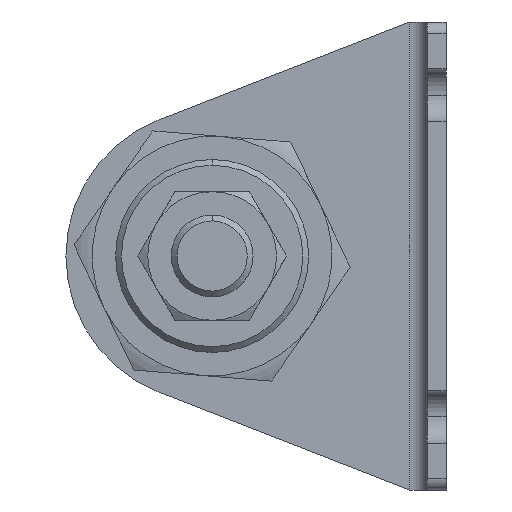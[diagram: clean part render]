
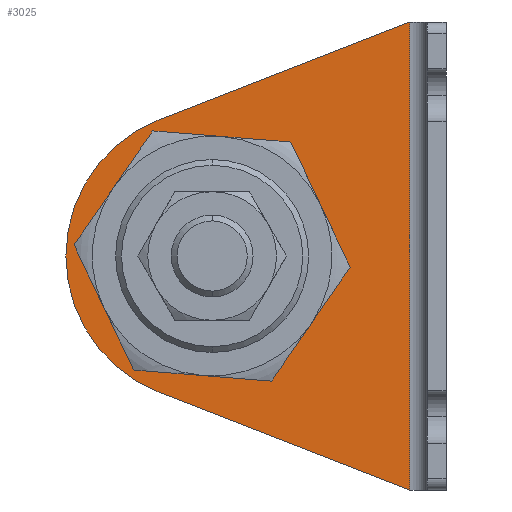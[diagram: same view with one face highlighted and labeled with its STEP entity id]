
A CAD part, left-side view. The second image highlights one B-rep face of the part: STEP entity #3025.
In plain terms, the highlighted planar face has unit normal (-1, 0, 0) as drawn and (1, 0, 0) by its records, which use the part's own axes.
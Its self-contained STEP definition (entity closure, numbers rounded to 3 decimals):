
#70 = AXIS2_PLACEMENT_3D ( 'NONE', #3148, #826, #3296 ) ;
#255 = CIRCLE ( 'NONE', #2501, 25. ) ;
#327 = VERTEX_POINT ( 'NONE', #2101 ) ;
#402 = DIRECTION ( 'NONE',  ( 0., 1., 0. ) ) ;
#411 = FACE_OUTER_BOUND ( 'NONE', #2574, .T. ) ;
#428 = VERTEX_POINT ( 'NONE', #1040 ) ;
#476 = VERTEX_POINT ( 'NONE', #831 ) ;
#553 = DIRECTION ( 'NONE',  ( 0., 0.932, 0.363 ) ) ;
#587 = CARTESIAN_POINT ( 'NONE',  ( 3.2, 40., -40. ) ) ;
#662 = ORIENTED_EDGE ( 'NONE', *, *, #2709, .F. ) ;
#712 = CARTESIAN_POINT ( 'NONE',  ( 3.2, 3.595, -81.015 ) ) ;
#715 = DIRECTION ( 'NONE',  ( 1., 0., 0. ) ) ;
#773 = LINE ( 'NONE', #1337, #2766 ) ;
#826 = DIRECTION ( 'NONE',  ( 1., 0., 0. ) ) ;
#831 = CARTESIAN_POINT ( 'NONE',  ( 3.2, 49.076, -16.706 ) ) ;
#872 = EDGE_CURVE ( 'NONE', #1557, #476, #2141, .T. ) ;
#892 = EDGE_LOOP ( 'NONE', ( #662, #3761 ) ) ;
#998 = CARTESIAN_POINT ( 'NONE',  ( 3.2, 3.2, -80. ) ) ;
#1013 = LINE ( 'NONE', #3983, #2777 ) ;
#1040 = CARTESIAN_POINT ( 'NONE',  ( 3.2, 56.5, -40. ) ) ;
#1300 = VERTEX_POINT ( 'NONE', #3874 ) ;
#1337 = CARTESIAN_POINT ( 'NONE',  ( 3.2, 30.657, -9.529 ) ) ;
#1357 = AXIS2_PLACEMENT_3D ( 'NONE', #998, #3534, #4303 ) ;
#1557 = VERTEX_POINT ( 'NONE', #2855 ) ;
#1574 = ORIENTED_EDGE ( 'NONE', *, *, #872, .T. ) ;
#1632 = DIRECTION ( 'NONE',  ( 0., 0.932, -0.363 ) ) ;
#1658 = DIRECTION ( 'NONE',  ( 1., 0., 0. ) ) ;
#1723 = AXIS2_PLACEMENT_3D ( 'NONE', #2669, #715, #402 ) ;
#1853 = VERTEX_POINT ( 'NONE', #3007 ) ;
#2101 = CARTESIAN_POINT ( 'NONE',  ( 3.2, 23.5, -40. ) ) ;
#2141 = CIRCLE ( 'NONE', #70, 25. ) ;
#2168 = VERTEX_POINT ( 'NONE', #2420 ) ;
#2330 = ORIENTED_EDGE ( 'NONE', *, *, #4276, .T. ) ;
#2345 = CIRCLE ( 'NONE', #1723, 16.5 ) ;
#2420 = CARTESIAN_POINT ( 'NONE',  ( 3.2, 6.2, -80. ) ) ;
#2430 = EDGE_CURVE ( 'NONE', #2168, #1300, #4310, .T. ) ;
#2501 = AXIS2_PLACEMENT_3D ( 'NONE', #587, #3816, #3662 ) ;
#2563 = AXIS2_PLACEMENT_3D ( 'NONE', #3615, #1658, #4183 ) ;
#2574 = EDGE_LOOP ( 'NONE', ( #2634, #2330, #1574, #3994, #4264 ) ) ;
#2634 = ORIENTED_EDGE ( 'NONE', *, *, #2430, .T. ) ;
#2669 = CARTESIAN_POINT ( 'NONE',  ( 3.2, 40., -40. ) ) ;
#2709 = EDGE_CURVE ( 'NONE', #428, #327, #3344, .T. ) ;
#2766 = VECTOR ( 'NONE', #1632, 1000. ) ;
#2777 = VECTOR ( 'NONE', #3400, 1000. ) ;
#2855 = CARTESIAN_POINT ( 'NONE',  ( 3.2, 65., -40. ) ) ;
#2957 = PLANE ( 'NONE',  #1357 ) ;
#2989 = VECTOR ( 'NONE', #553, 1000. ) ;
#3007 = CARTESIAN_POINT ( 'NONE',  ( 3.2, 6.2, 0. ) ) ;
#3025 = ADVANCED_FACE ( 'NONE', ( #4112, #411 ), #2957, .T. ) ;
#3082 = EDGE_CURVE ( 'NONE', #327, #428, #2345, .T. ) ;
#3148 = CARTESIAN_POINT ( 'NONE',  ( 3.2, 40., -40. ) ) ;
#3296 = DIRECTION ( 'NONE',  ( 0., 1., 0. ) ) ;
#3344 = CIRCLE ( 'NONE', #2563, 16.5 ) ;
#3400 = DIRECTION ( 'NONE',  ( 0., 0., -1. ) ) ;
#3534 = DIRECTION ( 'NONE',  ( 1., 0., 0. ) ) ;
#3615 = CARTESIAN_POINT ( 'NONE',  ( 3.2, 40., -40. ) ) ;
#3662 = DIRECTION ( 'NONE',  ( 0., 1., 0. ) ) ;
#3752 = EDGE_CURVE ( 'NONE', #1853, #476, #773, .T. ) ;
#3761 = ORIENTED_EDGE ( 'NONE', *, *, #3082, .F. ) ;
#3816 = DIRECTION ( 'NONE',  ( 1., 0., 0. ) ) ;
#3874 = CARTESIAN_POINT ( 'NONE',  ( 3.2, 49.076, -63.294 ) ) ;
#3983 = CARTESIAN_POINT ( 'NONE',  ( 3.2, 6.2, -80. ) ) ;
#3994 = ORIENTED_EDGE ( 'NONE', *, *, #3752, .F. ) ;
#4097 = EDGE_CURVE ( 'NONE', #1853, #2168, #1013, .T. ) ;
#4112 = FACE_BOUND ( 'NONE', #892, .T. ) ;
#4183 = DIRECTION ( 'NONE',  ( 0., 1., 0. ) ) ;
#4264 = ORIENTED_EDGE ( 'NONE', *, *, #4097, .T. ) ;
#4276 = EDGE_CURVE ( 'NONE', #1300, #1557, #255, .T. ) ;
#4303 = DIRECTION ( 'NONE',  ( 0., 1., 0. ) ) ;
#4310 = LINE ( 'NONE', #712, #2989 ) ;
